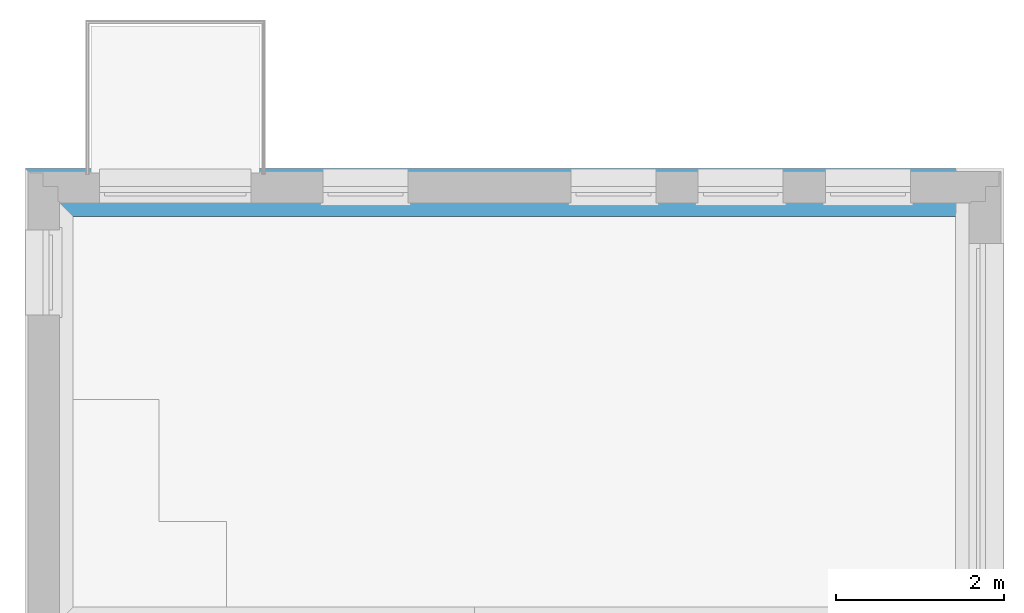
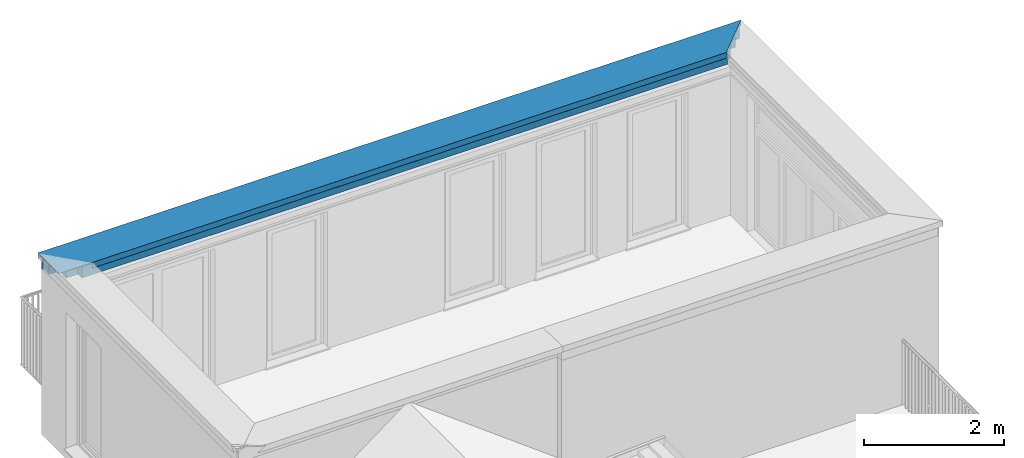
# One storey, part 4 of 15: 1 beam.
"""IFC4 building model written with IfcOpenShell, lengths in metres."""

from ifc_helpers import new_model, entity, si_unit, converted_unit, derived_unit, direction, frame, origin_with_axes, place, context, subcontext, project, spatial, triangles, material, constituent, constituent_set, type_object, element, save


model = new_model("IFC4")

# Units and contexts
model_context = context("Model", 3, precision=1e-05, world=origin_with_axes(), true_north=direction((-0.526213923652, 0.850352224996)))
body_context = subcontext(model_context, "Body", "Model", "MODEL_VIEW")
ifc_project = project(units=[si_unit("LENGTHUNIT", "METRE"), si_unit("AREAUNIT", "SQUARE_METRE"), si_unit("VOLUMEUNIT", "CUBIC_METRE"), converted_unit("PLANEANGLEUNIT", "DEGREE", entity("IfcPlaneAngleMeasure", 0.0174532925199), si_unit("PLANEANGLEUNIT", "RADIAN"), dimensions=[0, 0, 0, 0, 0, 0, 0]), si_unit("SOLIDANGLEUNIT", "STERADIAN"), converted_unit("TIMEUNIT", "Year", entity("IfcTimeMeasure", 31556926.0), si_unit("TIMEUNIT", "SECOND"), dimensions=[0, 0, 1, 0, 0, 0, 0]), si_unit("MASSUNIT", "GRAM", prefix="KILO"), si_unit("THERMODYNAMICTEMPERATUREUNIT", "DEGREE_CELSIUS"), si_unit("LUMINOUSINTENSITYUNIT", "LUMEN"), si_unit("ENERGYUNIT", "JOULE", prefix="MEGA"), derived_unit("THERMALCONDUCTANCEUNIT", [(si_unit("POWERUNIT", "WATT"), 1), (si_unit("LENGTHUNIT", "METRE"), -1), (si_unit("THERMODYNAMICTEMPERATUREUNIT", "KELVIN"), -1)]), derived_unit("SPECIFICHEATCAPACITYUNIT", [(si_unit("ENERGYUNIT", "JOULE"), 1), (si_unit("MASSUNIT", "GRAM", prefix="KILO"), -1), (si_unit("THERMODYNAMICTEMPERATUREUNIT", "KELVIN"), -1)]), derived_unit("MASSDENSITYUNIT", [(si_unit("MASSUNIT", "GRAM", prefix="KILO"), 1), (si_unit("VOLUMEUNIT", "CUBIC_METRE"), -1)])], contexts=[model_context])

# Site, building, storey, space
site_placement = place(None, origin_with_axes())
site = spatial("IfcSite", under=ifc_project, at=site_placement, Name="Gelände", CompositionType="ELEMENT")
building_placement = place(site_placement, origin_with_axes())
building = spatial("IfcBuilding", under=site, at=building_placement, Name="Haus vom Nikolaus", CompositionType="ELEMENT")
storey_placement = place(building_placement, frame((0.0, 0.0, 3.75), z_axis=(0.0, 0.0, 1.0), x_axis=(1.0, 0.0, 0.0)))
storey = spatial("IfcBuildingStorey", under=building, at=storey_placement, Name="1. OG", CompositionType="ELEMENT", Elevation=3.75)
space_placement = place(storey_placement, frame((-0.115002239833, 5.36483188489, 0.0), z_axis=(0.0, 0.0, 1.0), x_axis=(-1.0, 0.0, 0.0)))
space = spatial("IfcSpace", under=storey, at=space_placement, Name="OG", CompositionType="ELEMENT")

# Beam
ifc_material_1 = material(Name="Metall, Stahl verzinkt")
ifc_constituent_1 = constituent(ifc_material_1, Name="Component 1")
ifc_material_2 = material(Name="Holz, Spanplatte")
ifc_constituent_2 = constituent(ifc_material_2, Name="Component 2")
ifc_material_3 = material(Name="Dämmung, hart XPS")
ifc_constituent_3 = constituent(ifc_material_3, Name="Component 3")
ifc_material_4 = material(Name="Holz, Bauholz")
ifc_constituent_4 = constituent(ifc_material_4, Name="Component 4")
ifc_material_5 = material(Name="Holz, Brettschichtholz")
ifc_constituent_5 = constituent(ifc_material_5, Name="Component 5")
ifc_material_6 = material(Name="MW Kalksandstein")
ifc_constituent_6 = constituent(ifc_material_6, Name="Component 6")
ifc_constituent_7 = constituent(ifc_material_3, Name="Component 7")
ifc_constituent_8 = constituent(ifc_material_4, Name="Component 8")
ifc_material_7 = material(Name="Verputz, Kalkzement")
ifc_constituent_9 = constituent(ifc_material_7, Name="Component 9")
ifc_constituent_set = constituent_set(constituents=[ifc_constituent_1, ifc_constituent_2, ifc_constituent_3, ifc_constituent_4, ifc_constituent_5, ifc_constituent_6, ifc_constituent_7, ifc_constituent_8, ifc_constituent_9], Name="Bauteil - Attika Mauerwerk")
beam_type = type_object("IfcBeamType", Name="Bauteil - Attika Mauerwerk 574 x 270", PredefinedType="NOTDEFINED")
beam_placement = place(space_placement, frame((-11.3749998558, -7.45000018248, 2.82), z_axis=(0.0, 0.0, 1.0), x_axis=(1.0, -5.77583575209e-09, 0.0)))
element("IfcBeam", 1, at=beam_placement, inside=space, type_object=beam_type, material=ifc_constituent_set, Name="Attika-Wand-009", ObjectType="Bauteil - Attika Mauerwerk 574 x 270", context=body_context, shape_type="Tessellation", body=[
    triangles([(10.8484773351, 0.346522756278, 0.238724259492), (10.849481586, 0.345518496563, 0.237813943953), (10.849481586, 0.347433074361, 0.237813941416), (10.8425761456, 0.354338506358, 0.230908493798), (10.8425761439, 0.352423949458, 0.230908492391), (0.355692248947, 0.354338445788, 0.230908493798), (0.346522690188, 0.346522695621, 0.238724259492), (10.8406615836, 0.354338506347, 0.230908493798), (0.354338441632, 0.354338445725, 0.23090849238), (0.347432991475, 0.345518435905, 0.237813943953), (10.8412223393, 0.355692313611, 0.229554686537), (10.8425761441, 0.355692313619, 0.230908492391), (10.840265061, 0.354735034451, 0.228597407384), (0.355692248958, 0.352423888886, 0.230908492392), (0.354338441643, 0.352423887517, 0.23090849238), (0.35569224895, 0.353777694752, 0.229554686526), (0.354734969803, 0.354734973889, 0.228597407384), (10.8406615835, 0.355692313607, 0.230908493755), (0.355692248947, 0.354338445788, 0.24), (10.8406615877, 0.354338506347, 0.240000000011), (0.355692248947, 0.354338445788, 0.24895224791), (0.355692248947, 0.354338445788, 0.300000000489), (10.8406615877, 0.354338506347, 0.300000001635), (0.355692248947, 0.354338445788, 0.30784881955), (10.8406615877, 0.354338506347, 0.259126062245), (10.8406615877, 0.354338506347, 0.307848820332), (0.355692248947, 0.354338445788, 0.315979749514), (10.8406615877, 0.354338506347, 0.315979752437), (0.355692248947, 0.354338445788, 0.321948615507), (10.8406615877, 0.354338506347, 0.321948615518), (0.355692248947, 0.354338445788, 0.324039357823), (10.8406615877, 0.354338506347, 0.324039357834), (10.8406615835, 0.354338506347, 0.327839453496), (0.355692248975, 0.354338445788, 0.327839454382), (0.355692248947, 0.354338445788, 0.259126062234), (10.8406615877, 0.354338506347, 0.25126333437), (0.355692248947, 0.354338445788, 0.251263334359), (10.8406615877, 0.354338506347, 0.248952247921), (10.8406615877, 0.354338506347, 0.238724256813), (0.355692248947, 0.354338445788, 0.238724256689), (0.355692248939, 0.355692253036, 0.229554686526), (10.8406615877, 0.355692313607, 0.240000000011), (0.355692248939, 0.355692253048, 0.24895224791), (10.8406615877, 0.355692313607, 0.248952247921), (0.355692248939, 0.355692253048, 0.251263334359), (10.8406615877, 0.355692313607, 0.25126333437), (0.355692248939, 0.355692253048, 0.259126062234), (10.8406615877, 0.355692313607, 0.259126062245), (0.355692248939, 0.355692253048, 0.315979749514), (10.8406615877, 0.355692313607, 0.307848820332), (0.355692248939, 0.355692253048, 0.30784881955), (0.355692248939, 0.355692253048, 0.300000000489), (10.8406615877, 0.355692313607, 0.300000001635), (10.8406615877, 0.355692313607, 0.315979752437), (0.355692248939, 0.355692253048, 0.321948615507), (10.8406615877, 0.355692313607, 0.321948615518), (0.355692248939, 0.355692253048, 0.324039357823), (10.8406615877, 0.355692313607, 0.324039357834), (10.8406615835, 0.355692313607, 0.327839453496), (0.355692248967, 0.355692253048, 0.327839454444), (0.355692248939, 0.355692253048, 0.329145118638), (10.8767310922, 0.355692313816, 0.329145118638), (0.355692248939, 0.355692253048, 0.24), (10.8406615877, 0.355692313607, 0.238724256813), (0.355692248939, 0.355692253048, 0.238724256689), (0.355692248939, 0.355692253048, 0.23090849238), (0.355692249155, 0.318268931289, 0.329145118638), (11.4106361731, -0.215636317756, 0.348471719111), (-0.178177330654, -0.2156361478, 0.348471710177), (11.4128599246, -0.217859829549, 0.349908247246), (11.4106361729, -0.17817751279, 0.348471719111), (-0.178177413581, -0.178177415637, 0.348471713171), (-0.179090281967, -0.179090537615, 0.348504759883), (-0.217859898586, -0.217859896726, 0.349908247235), (11.4115124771, -0.179090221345, 0.348504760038), (11.4128599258, -0.179090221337, 0.348504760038), (11.4115124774, -0.216512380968, 0.348504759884), (-0.179090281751, -0.216512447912, 0.348504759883), (-0.179090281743, -0.217859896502, 0.348504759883), (-0.214591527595, -0.217859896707, 0.251263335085), (-0.216506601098, -0.217859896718, 0.259126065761), (-0.216506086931, -0.217859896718, 0.251263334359), (-0.21651244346, -0.217859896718, 0.348471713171), (-0.216512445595, -0.217859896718, 0.348504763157), (11.4128599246, -0.217859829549, 0.249909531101), (-0.216511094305, -0.217859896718, 0.327839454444), (-0.216510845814, -0.217859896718, 0.324039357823), (-0.2165107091, -0.217859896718, 0.321948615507), (-0.216510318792, -0.217859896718, 0.315979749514), (-0.216509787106, -0.217859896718, 0.30784881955), (-0.216509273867, -0.217859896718, 0.300000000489), (-0.215945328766, -0.217859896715, 0.249909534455), (11.4128599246, -0.21651238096, 0.348504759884), (11.4128599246, -0.216506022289, 0.251263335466), (11.4128599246, -0.2159452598, 0.249909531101), (11.412859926, -0.214591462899, 0.25126333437), (-0.216506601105, -0.216506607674, 0.259126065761), (-0.216509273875, -0.216509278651, 0.300000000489), (11.4115061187, -0.216506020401, 0.251263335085), (-0.214591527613, -0.216506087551, 0.251263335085), (-0.216506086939, -0.216506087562, 0.251263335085), (-0.216509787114, -0.216509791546, 0.30784881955), (-0.2165103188, -0.216510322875, 0.315979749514), (-0.216510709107, -0.216510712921, 0.321948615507), (-0.216510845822, -0.216510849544, 0.324039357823), (-0.216511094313, -0.216511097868, 0.327839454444), (-0.216512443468, -0.216512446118, 0.348471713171), (-0.216512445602, -0.21651244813, 0.348504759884), (-0.216902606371, -0.216902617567, 0.248952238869), (-0.214591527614, -0.214591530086, 0.251263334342), (11.4119026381, -0.216902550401, 0.24895223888), (11.4115061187, -0.214591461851, 0.251263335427), (11.4046476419, -0.207732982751, 0.258121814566), (-0.207733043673, -0.207733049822, 0.258121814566), (-0.207733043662, -0.209647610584, 0.258121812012), (11.4036433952, -0.208643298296, 0.259126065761), (-0.208643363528, -0.208643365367, 0.259126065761)], [[1, 2, 3], [4, 3, 5], [2, 5, 3], [3, 4, 1], [1, 6, 7], [1, 4, 8], [7, 6, 9], [6, 1, 8], [10, 1, 7], [1, 10, 2], [4, 11, 12], [11, 4, 13], [5, 13, 4], [14, 10, 15], [10, 14, 2], [13, 16, 17], [13, 14, 16], [2, 14, 5], [14, 13, 5], [8, 12, 18], [12, 8, 4], [19, 20, 21], [22, 23, 24], [23, 22, 25], [26, 24, 23], [24, 26, 27], [28, 27, 26], [27, 28, 29], [30, 29, 28], [29, 30, 31], [32, 31, 30], [33, 31, 32], [31, 33, 34], [25, 35, 36], [35, 25, 22], [37, 36, 35], [36, 37, 38], [21, 38, 37], [38, 21, 20], [20, 19, 39], [40, 39, 19], [39, 40, 8], [6, 8, 40], [14, 9, 6], [14, 15, 9], [7, 15, 10], [15, 7, 9], [13, 41, 11], [13, 17, 41], [18, 12, 11], [42, 43, 44], [44, 45, 46], [46, 47, 48], [49, 50, 51], [48, 52, 53], [50, 49, 54], [55, 54, 49], [54, 55, 56], [57, 56, 55], [56, 57, 58], [58, 57, 59], [59, 57, 60], [59, 60, 61], [61, 62, 59], [51, 53, 52], [53, 51, 50], [52, 48, 47], [47, 46, 45], [45, 44, 43], [43, 42, 63], [64, 63, 42], [63, 64, 65], [18, 65, 64], [65, 18, 66], [66, 18, 41], [41, 18, 11], [41, 6, 66], [6, 41, 16], [6, 16, 14], [16, 41, 17], [8, 64, 39], [64, 8, 18], [20, 64, 42], [20, 39, 64], [38, 42, 44], [38, 20, 42], [38, 46, 36], [46, 38, 44], [25, 46, 48], [25, 36, 46], [23, 48, 53], [23, 25, 48], [26, 53, 50], [26, 23, 53], [28, 50, 54], [28, 26, 50], [30, 54, 56], [30, 28, 54], [32, 56, 58], [32, 30, 56], [32, 59, 33], [59, 32, 58], [67, 68, 69], [68, 67, 33], [33, 67, 34], [34, 57, 31], [57, 34, 60], [29, 57, 55], [29, 31, 57], [27, 55, 49], [27, 29, 55], [24, 49, 51], [24, 27, 49], [24, 52, 22], [24, 51, 52], [35, 52, 47], [35, 22, 52], [35, 45, 37], [35, 47, 45], [21, 45, 43], [21, 37, 45], [21, 63, 19], [63, 21, 43], [40, 63, 65], [40, 19, 63], [6, 65, 66], [6, 40, 65], [34, 61, 60], [34, 67, 61], [62, 70, 71], [61, 70, 62], [70, 61, 72], [70, 72, 73], [70, 73, 74], [75, 71, 70], [76, 75, 70], [59, 62, 33], [33, 71, 68], [71, 33, 62], [69, 77, 78], [77, 69, 68], [72, 67, 69], [67, 72, 61], [73, 69, 78], [69, 73, 72], [74, 78, 79], [74, 73, 78], [80, 81, 82], [79, 70, 74], [83, 79, 84], [70, 79, 85], [86, 79, 83], [87, 79, 86], [88, 79, 87], [89, 79, 88], [90, 79, 89], [91, 79, 90], [81, 79, 91], [92, 85, 80], [80, 85, 79], [81, 80, 79], [93, 85, 94], [95, 94, 85], [76, 70, 93], [85, 93, 70], [94, 95, 96], [93, 75, 76], [93, 77, 75], [68, 75, 77], [75, 68, 71], [93, 94, 77], [78, 97, 98], [77, 94, 99], [97, 100, 101], [78, 98, 102], [78, 102, 103], [78, 103, 104], [78, 104, 105], [78, 105, 106], [78, 106, 107], [78, 107, 108], [97, 78, 100], [100, 78, 99], [78, 77, 99], [108, 79, 78], [108, 84, 79], [108, 83, 84], [83, 108, 107], [107, 86, 83], [86, 107, 106], [106, 87, 86], [87, 106, 105], [105, 88, 87], [88, 105, 104], [104, 89, 88], [89, 104, 103], [103, 90, 89], [90, 103, 102], [91, 102, 98], [91, 90, 102], [81, 98, 97], [81, 91, 98], [82, 97, 101], [82, 81, 97], [82, 100, 80], [100, 82, 101], [92, 100, 109], [109, 100, 110], [92, 80, 100], [85, 92, 111], [109, 111, 92], [96, 99, 94], [99, 96, 112], [111, 95, 85], [111, 113, 112], [110, 111, 109], [111, 112, 95], [95, 112, 96], [114, 111, 110], [113, 111, 114], [115, 116, 117], [100, 99, 115], [116, 115, 99], [100, 115, 110], [114, 110, 115], [116, 112, 113], [112, 116, 99], [113, 114, 116], [117, 116, 114], [117, 114, 115]], closed=True),
    triangles([(11.4113566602, 0.354338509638, 0.327839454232), (11.4113566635, -0.216356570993, 0.327839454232), (11.4113596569, 0.354335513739, 0.327753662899), (11.4113595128, -0.216359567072, 0.327753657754), (0.354338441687, 0.354338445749, 0.327839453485), (11.3049960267, 0.35420580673, 0.324039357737), (11.2451250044, 0.354132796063, 0.321948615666), (11.0741989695, 0.353924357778, 0.315979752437), (10.8413596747, 0.353640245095, 0.307848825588), (0.353924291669, 0.353924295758, 0.315979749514), (0.353640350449, 0.353640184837, 0.307848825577), (0.354132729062, 0.354132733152, 0.321948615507), (0.354205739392, 0.35420574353, 0.324039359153), (11.4106361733, -0.215636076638, 0.348471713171), (0.354338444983, -0.216356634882, 0.327839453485), (-0.215636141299, -0.21563614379, 0.348471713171), (0.354335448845, -0.216359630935, 0.327753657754), (11.3049960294, -0.10999593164, 0.324039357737), (11.2451250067, -0.0501249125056, 0.321948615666), (11.0741989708, 0.120800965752, 0.315979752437), (0.354132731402, -0.0501249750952, 0.321948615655), (0.353924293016, 0.120800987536, 0.315979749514), (0.354205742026, -0.109995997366, 0.324039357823)], [[1, 2, 3], [4, 3, 2], [5, 6, 7], [5, 1, 6], [5, 7, 8], [5, 8, 9], [10, 9, 11], [12, 9, 10], [13, 9, 12], [5, 9, 13], [6, 1, 3], [14, 2, 1], [14, 15, 2], [14, 16, 15], [2, 15, 4], [15, 17, 4], [18, 3, 4], [3, 18, 6], [6, 19, 7], [19, 6, 18], [20, 7, 19], [20, 8, 7], [8, 20, 9], [19, 21, 20], [9, 22, 11], [9, 21, 22], [21, 9, 20], [22, 10, 11], [21, 12, 22], [22, 12, 10], [23, 13, 21], [21, 13, 12], [15, 23, 17], [23, 5, 13], [23, 15, 5], [5, 14, 1], [5, 16, 14], [16, 5, 15], [4, 17, 18], [23, 18, 17], [18, 23, 19], [21, 19, 23]], closed=True),
    triangles([(0.310282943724, 0.200000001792, 0.259126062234), (10.9950000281, 0.200000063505, 0.259126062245), (0.310282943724, 0.200000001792, 0.300000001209), (10.9950000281, 0.200000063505, 0.30000000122), (10.9950000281, 0.200000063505, 0.248952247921), (0.310282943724, 0.200000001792, 0.251263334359), (0.310282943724, 0.200000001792, 0.24895224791), (10.9950000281, 0.200000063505, 0.25126333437), (0.310282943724, 0.200000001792, 0.238724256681), (10.9950000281, 0.200000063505, 0.238724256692), (0.310282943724, 0.200000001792, 0.24), (0.310282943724, 0.200000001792, 0.23090849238), (10.9950000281, 0.200000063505, 0.230908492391), (10.9950000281, 0.200000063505, 0.228597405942), (0.310282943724, 0.200000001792, 0.228597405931), (10.9950000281, 0.200000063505, 0.0800000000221), (0.310282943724, 0.200000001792, 0.0799999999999), (10.9950000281, 0.200000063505, 0.240000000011), (10.9950000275, 0.310283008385, 0.259126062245), (10.9950000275, 0.310283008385, 0.30000000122), (0.310282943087, 0.310282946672, 0.300000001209), (0.310282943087, 0.310282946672, 0.259126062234), (0.310282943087, 0.310282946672, 0.251263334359), (0.310282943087, 0.310282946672, 0.24895224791), (0.310282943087, 0.310282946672, 0.24), (0.310282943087, 0.310282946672, 0.238724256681), (0.310282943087, 0.310282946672, 0.23090849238), (0.310282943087, 0.310282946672, 0.228597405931), (0.310282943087, 0.310282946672, 0.0799999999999), (10.9950000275, 0.310283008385, 0.0800000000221), (10.9950000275, 0.310283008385, 0.228597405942), (10.9950000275, 0.310283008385, 0.230908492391), (10.9950000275, 0.310283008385, 0.238724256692), (10.9950000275, 0.310283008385, 0.240000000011), (10.9950000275, 0.310283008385, 0.248952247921), (10.9950000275, 0.310283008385, 0.25126333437)], [[1, 2, 3], [3, 2, 4], [5, 6, 7], [8, 1, 6], [9, 10, 11], [12, 13, 9], [13, 12, 14], [14, 12, 15], [16, 15, 17], [1, 8, 2], [14, 15, 16], [10, 9, 13], [18, 11, 10], [11, 18, 7], [5, 7, 18], [8, 6, 5], [19, 4, 2], [4, 19, 20], [3, 20, 21], [20, 3, 4], [21, 1, 3], [21, 22, 1], [23, 1, 22], [23, 6, 1], [24, 6, 23], [24, 7, 6], [25, 7, 24], [25, 11, 7], [26, 11, 25], [26, 9, 11], [27, 9, 26], [27, 12, 9], [28, 12, 27], [28, 15, 12], [29, 15, 28], [29, 17, 15], [17, 30, 16], [17, 29, 30], [16, 31, 14], [16, 30, 31], [14, 32, 13], [14, 31, 32], [13, 33, 10], [13, 32, 33], [33, 18, 10], [18, 33, 34], [18, 35, 5], [18, 34, 35], [5, 36, 8], [5, 35, 36], [8, 19, 2], [8, 36, 19], [34, 24, 35], [25, 33, 26], [33, 25, 34], [32, 26, 33], [26, 32, 27], [31, 27, 32], [27, 31, 28], [30, 28, 31], [28, 30, 29], [23, 35, 24], [24, 34, 25], [35, 23, 36], [22, 36, 23], [36, 22, 19], [21, 19, 22], [19, 21, 20]], closed=True),
    triangles([(11.0750000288, 0.120000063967, 0.315979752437), (0.180110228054, 0.12000000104, 0.313880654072), (11.0750000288, 0.120000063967, 0.307848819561), (0.119999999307, 0.120000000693, 0.315979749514), (11.0750000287, 0.120000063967, 0.300000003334), (0.180062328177, 0.12000000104, 0.30784881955), (0.179999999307, 0.12000000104, 0.300000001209), (11.0750000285, 0.180110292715, 0.313880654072), (11.0750000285, 0.180062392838, 0.307848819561), (0.180110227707, 0.180110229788, 0.313880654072), (0.180062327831, 0.180062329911, 0.30784881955), (0.17999999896, 0.18000000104, 0.300000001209), (11.0750000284, 0.180000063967, 0.300000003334)], [[1, 2, 3], [2, 1, 4], [5, 2, 6], [5, 6, 7], [2, 5, 3], [3, 8, 1], [3, 9, 8], [10, 1, 8], [10, 4, 1], [10, 2, 4], [2, 11, 6], [2, 10, 11], [12, 6, 11], [12, 7, 6], [7, 13, 5], [7, 12, 13], [13, 3, 5], [3, 13, 9], [9, 10, 8], [11, 13, 12], [10, 13, 11], [13, 10, 9]], closed=True),
    triangles([(11.3550235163, -0.160023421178, 0.25126333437), (11.355039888, 0.200000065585, 0.259126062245), (11.3550398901, -0.160039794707, 0.259126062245), (11.3550235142, 0.200000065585, 0.25126333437), (11.3551250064, 0.180000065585, 0.3000000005), (11.3551250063, 0.200000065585, 0.3000000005), (11.3551250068, 0.120000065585, 0.3000000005), (11.3551250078, -0.0501249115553, 0.3000000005), (11.3551250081, -0.110124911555, 0.3000000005), (11.3551250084, -0.160124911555, 0.3000000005), (0.200000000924, -0.160039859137, 0.259126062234), (0.200000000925, -0.160124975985, 0.300000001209), (11.3550000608, -0.159999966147, 0.239999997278), (0.200000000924, -0.160023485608, 0.251263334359), (0.200000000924, -0.160018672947, 0.24895224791), (0.200000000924, -0.160000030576, 0.24), (11.3550187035, -0.160018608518, 0.248952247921), (11.3550187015, 0.200000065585, 0.248952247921), (0.199999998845, 0.200000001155, 0.259126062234), (11.3550000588, 0.200000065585, 0.239999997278), (0.199999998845, 0.200000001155, 0.251263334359), (0.199999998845, 0.200000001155, 0.24895224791), (0.199999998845, 0.200000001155, 0.24), (0.199999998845, 0.200000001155, 0.300000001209), (0.19999999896, 0.180000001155, 0.300000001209), (0.199999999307, 0.120000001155, 0.300000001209), (0.20000000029, -0.0501249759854, 0.300000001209), (0.200000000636, -0.110124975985, 0.300000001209)], [[1, 2, 3], [1, 4, 2], [5, 2, 6], [7, 2, 5], [8, 2, 7], [9, 3, 8], [2, 8, 3], [3, 9, 10], [11, 3, 12], [12, 3, 10], [13, 14, 15], [13, 11, 14], [13, 15, 16], [1, 3, 11], [17, 11, 13], [1, 11, 17], [17, 4, 1], [17, 18, 4], [19, 20, 21], [20, 19, 18], [21, 20, 22], [22, 20, 23], [18, 19, 4], [24, 2, 19], [4, 19, 2], [2, 24, 6], [24, 5, 6], [24, 25, 5], [25, 7, 5], [25, 26, 7], [26, 8, 7], [26, 27, 8], [27, 9, 8], [27, 28, 9], [28, 10, 9], [28, 12, 10], [27, 11, 28], [28, 11, 12], [19, 27, 26], [19, 26, 25], [19, 25, 24], [27, 19, 11], [14, 19, 21], [19, 14, 11], [15, 21, 22], [21, 15, 14], [16, 22, 23], [22, 16, 15], [23, 13, 16], [13, 23, 20], [13, 18, 17], [13, 20, 18]], closed=True),
    triangles([(0.2, 1.15516840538e-09, 0.238724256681), (11.1950000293, 6.46604814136e-08, 0.238724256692), (0.2, 1.15516662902e-09, 0.24), (11.1950000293, 6.46604814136e-08, 0.240000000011), (11.1950000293, 6.46604814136e-08, 0.228597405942), (0.2, 1.15516840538e-09, 0.23090849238), (0.2, 1.15516840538e-09, 0.228597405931), (11.1950000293, 6.46604814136e-08, 0.230908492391), (11.1950000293, 6.46604814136e-08, 0.0800000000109), (0.2, 1.15516662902e-09, 0.080000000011), (11.1950000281, 0.20000006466, 0.240000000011), (11.1950000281, 0.20000006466, 0.238724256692), (0.199999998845, 0.200000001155, 0.24), (0.199999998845, 0.200000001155, 0.238724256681), (0.199999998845, 0.200000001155, 0.23090849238), (0.199999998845, 0.200000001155, 0.228597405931), (0.199999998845, 0.200000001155, 0.080000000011), (11.1950000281, 0.20000006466, 0.0800000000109), (11.1950000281, 0.20000006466, 0.228597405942), (11.1950000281, 0.20000006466, 0.230908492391)], [[1, 2, 3], [3, 2, 4], [5, 6, 7], [8, 1, 6], [9, 7, 10], [5, 7, 9], [8, 6, 5], [1, 8, 2], [2, 11, 4], [2, 12, 11], [13, 4, 11], [13, 3, 4], [13, 1, 3], [13, 14, 1], [15, 1, 14], [15, 6, 1], [16, 6, 15], [16, 7, 6], [17, 7, 16], [17, 10, 7], [17, 9, 10], [9, 17, 18], [9, 19, 5], [9, 18, 19], [5, 20, 8], [5, 19, 20], [8, 12, 2], [8, 20, 12], [20, 14, 12], [15, 19, 16], [19, 15, 20], [18, 16, 19], [16, 18, 17], [13, 12, 14], [14, 20, 15], [12, 13, 11]], closed=True),
    triangles([(11.3550000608, -0.159999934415, 0.239999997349), (9.24133658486e-10, -0.16, 0.238724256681), (11.3550000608, -0.159999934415, 0.238724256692), (9.24133658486e-10, -0.16, 0.24), (11.3550000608, -0.159999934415, 0.228597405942), (9.24135434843e-10, -0.16, 0.23090849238), (9.24135434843e-10, -0.16, 0.228597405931), (11.3550000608, -0.159999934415, 0.230908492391), (11.3550000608, -0.159999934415, 0.080000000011), (9.24156751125e-10, -0.16, 0.0799999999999), (11.3550000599, 6.55846150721e-08, 0.239999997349), (11.3550000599, 6.55846168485e-08, 0.238724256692), (0.0, 0.0, 0.24), (0.0, 0.0, 0.238724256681), (0.0, 0.0, 0.23090849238), (0.0, 0.0, 0.228597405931), (0.0, 0.0, 0.0799999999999), (11.3550000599, 6.55846381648e-08, 0.080000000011), (11.3550000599, 6.55846168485e-08, 0.228597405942), (11.3550000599, 6.55846168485e-08, 0.230908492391)], [[1, 2, 3], [2, 1, 4], [5, 6, 7], [8, 2, 6], [9, 7, 10], [2, 8, 3], [5, 7, 9], [8, 6, 5], [3, 11, 1], [3, 12, 11], [13, 1, 11], [13, 4, 1], [13, 2, 4], [13, 14, 2], [15, 2, 14], [15, 6, 2], [16, 6, 15], [16, 7, 6], [10, 16, 17], [16, 10, 7], [10, 18, 9], [10, 17, 18], [9, 19, 5], [9, 18, 19], [5, 20, 8], [5, 19, 20], [8, 12, 3], [8, 20, 12], [20, 14, 12], [15, 19, 16], [19, 15, 20], [18, 16, 19], [16, 18, 17], [12, 14, 11], [14, 20, 15], [13, 11, 14]], closed=True),
    triangles([(-0.050124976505, -0.110039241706, 0.315979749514), (11.3049960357, -0.109995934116, 0.324039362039), (-0.0501249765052, -0.110007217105, 0.321948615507), (-0.10999599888, -0.109996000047, 0.324039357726), (-0.0501249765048, -0.110082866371, 0.30784881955), (-0.0501249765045, -0.11012497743, 0.300000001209), (11.305007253, -0.110007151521, 0.321948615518), (11.3050392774, -0.11003917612, 0.315979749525), (11.3050829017, -0.11008280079, 0.307848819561), (11.3051250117, -0.110124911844, 0.300000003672), (11.3050072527, -0.0501249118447, 0.321948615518), (-0.0501249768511, -0.0501249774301, 0.321948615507), (-0.0501249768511, -0.0501249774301, 0.315979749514), (-0.0501249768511, -0.0501249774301, 0.30784881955), (-0.0501249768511, -0.0501249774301, 0.300000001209), (11.3051250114, -0.0501249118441, 0.300000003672), (11.3050829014, -0.0501249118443, 0.307848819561), (11.305039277, -0.0501249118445, 0.315979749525)], [[1, 2, 3], [2, 4, 3], [5, 2, 1], [6, 2, 5], [2, 6, 7], [8, 7, 6], [9, 6, 10], [8, 6, 9], [7, 11, 2], [12, 2, 11], [12, 4, 2], [12, 3, 4], [13, 3, 12], [13, 1, 3], [14, 1, 13], [14, 5, 1], [15, 5, 14], [15, 6, 5], [15, 10, 6], [10, 15, 16], [16, 9, 10], [9, 16, 17], [17, 8, 9], [8, 17, 18], [18, 7, 8], [7, 18, 11], [18, 15, 11], [16, 15, 17], [17, 15, 18], [13, 11, 14], [14, 11, 15], [12, 11, 13]], closed=True),
    triangles([(11.3750000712, -0.179999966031, 0.24895223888), (11.375000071, -0.159999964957, 0.239999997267), (11.375000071, -0.160018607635, 0.24895223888), (11.3750000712, -0.179999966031, 0.0799999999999), (11.375000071, -0.159999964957, 0.0799999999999), (-0.160000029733, -0.160000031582, 0.228597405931), (-0.160000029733, -0.160000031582, 0.23090849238), (-0.160000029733, -0.160000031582, 0.0799999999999), (-0.160000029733, -0.160000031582, 0.238724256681), (-0.160000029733, -0.160000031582, 0.239999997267), (11.3750000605, -0.160039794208, 0.259126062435), (-0.16001867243, -0.160018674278, 0.24895224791), (-0.160023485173, -0.160023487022, 0.251263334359), (-0.160039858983, -0.160039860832, 0.259126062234), (11.3750000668, -0.160124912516, 0.300000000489), (-0.160124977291, -0.160124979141, 0.300000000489), (11.3750000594, -0.160023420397, 0.25126333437), (11.3750000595, -0.179999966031, 0.25126333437), (-0.160023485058, -0.180000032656, 0.251263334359), (11.3750000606, -0.179999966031, 0.259126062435), (-0.160039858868, -0.180000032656, 0.259126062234), (-0.160018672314, -0.180000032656, 0.24895224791), (11.3750000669, -0.179999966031, 0.300000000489), (-0.160124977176, -0.180000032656, 0.300000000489), (-0.160000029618, -0.180000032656, 0.24000000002), (-0.160000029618, -0.180000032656, 0.238724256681), (-0.160000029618, -0.180000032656, 0.23090849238), (-0.160000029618, -0.180000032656, 0.228597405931), (-0.160000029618, -0.180000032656, 0.0799999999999)], [[1, 2, 3], [4, 2, 1], [2, 4, 5], [2, 6, 7], [6, 5, 8], [2, 7, 9], [2, 9, 10], [6, 2, 5], [3, 2, 10], [11, 12, 13], [11, 10, 12], [11, 13, 14], [15, 14, 16], [11, 14, 15], [17, 10, 11], [3, 10, 17], [1, 17, 18], [17, 1, 3], [19, 20, 21], [22, 20, 19], [23, 21, 20], [21, 23, 24], [20, 25, 18], [25, 20, 22], [18, 25, 1], [26, 1, 25], [27, 1, 26], [28, 1, 27], [1, 28, 4], [29, 4, 28], [29, 5, 4], [5, 29, 8], [28, 8, 29], [28, 6, 8], [28, 7, 6], [28, 27, 7], [27, 9, 7], [27, 26, 9], [26, 10, 9], [26, 25, 10], [12, 25, 22], [25, 12, 10], [22, 13, 12], [22, 19, 13], [19, 14, 13], [19, 21, 14], [21, 16, 14], [21, 24, 16], [16, 23, 15], [16, 24, 23], [15, 20, 11], [20, 15, 23], [18, 11, 20], [11, 18, 17]], closed=True),
])

save(model, "model.ifc")
